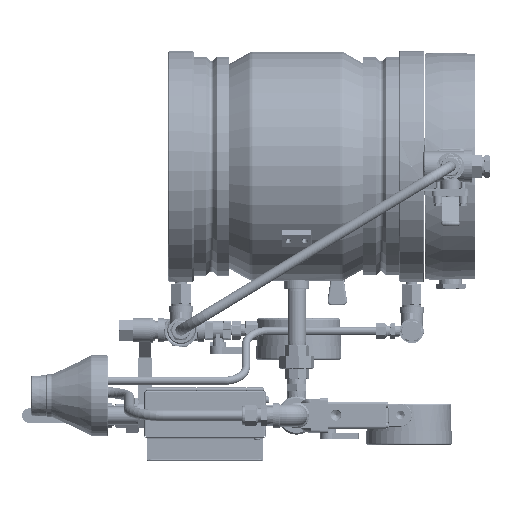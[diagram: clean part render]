
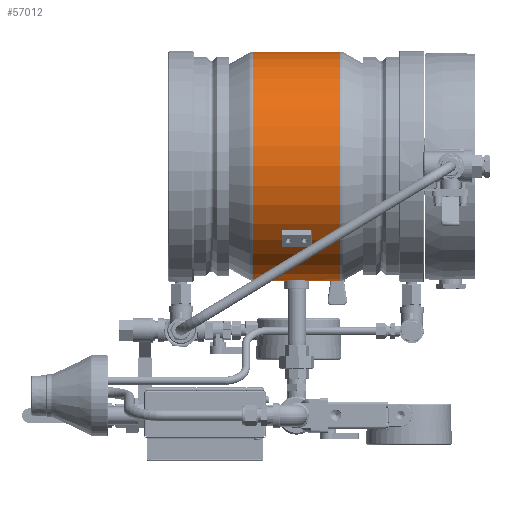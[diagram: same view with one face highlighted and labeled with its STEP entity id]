
A CAD part, front view. The second image highlights one B-rep face of the part: STEP entity #57012.
In plain terms, the highlighted cylindrical face has radius 135 mm (diameter 270 mm), a full revolution.
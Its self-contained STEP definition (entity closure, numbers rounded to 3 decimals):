
#1361=B_SPLINE_CURVE_WITH_KNOTS('',3,(#86276,#86277,#86278,#86279,#86280,
#86281,#86282,#86283,#86284,#86285,#86286,#86287,#86288,#86289,#86290,#86291,
#86292,#86293),.UNSPECIFIED.,.F.,.F.,(4,2,2,2,2,2,2,2,4),(2.111,
2.639,3.167,3.694,4.222,4.75,
5.278,5.805,6.333),.UNSPECIFIED.);
#1362=B_SPLINE_CURVE_WITH_KNOTS('',3,(#86294,#86295,#86296,#86297,#86298,
#86299,#86300,#86301,#86302,#86303,#86304,#86305,#86306,#86307,#86308,#86309,
#86310,#86311,#86312),.UNSPECIFIED.,.F.,.F.,(4,2,2,2,3,2,2,2,4),(6.333,
6.861,7.389,7.917,8.444,8.972,
9.5,10.028,10.555),.UNSPECIFIED.);
#2344=CYLINDRICAL_SURFACE('',#62911,135.);
#14425=FACE_BOUND('',#19535,.T.);
#14426=FACE_BOUND('',#19536,.T.);
#15755=FACE_OUTER_BOUND('',#19534,.T.);
#19534=EDGE_LOOP('',(#41051));
#19535=EDGE_LOOP('',(#41052,#41053));
#19536=EDGE_LOOP('',(#41054));
#24192=CIRCLE('',#62910,135.);
#24193=CIRCLE('',#62912,135.);
#26591=VERTEX_POINT('',#86274);
#26592=VERTEX_POINT('',#86275);
#26613=VERTEX_POINT('',#86404);
#26614=VERTEX_POINT('',#86407);
#32267=EDGE_CURVE('',#26591,#26592,#1361,.T.);
#32268=EDGE_CURVE('',#26592,#26591,#1362,.T.);
#32289=EDGE_CURVE('',#26613,#26613,#24192,.T.);
#32290=EDGE_CURVE('',#26614,#26614,#24193,.T.);
#41051=ORIENTED_EDGE('',*,*,#32290,.F.);
#41052=ORIENTED_EDGE('',*,*,#32267,.T.);
#41053=ORIENTED_EDGE('',*,*,#32268,.T.);
#41054=ORIENTED_EDGE('',*,*,#32289,.F.);
#57012=ADVANCED_FACE('',(#15755,#14425,#14426),#2344,.T.);
#62910=AXIS2_PLACEMENT_3D('',#86405,#69729,#69730);
#62911=AXIS2_PLACEMENT_3D('',#86406,#69731,#69732);
#62912=AXIS2_PLACEMENT_3D('',#86408,#69733,#69734);
#69729=DIRECTION('center_axis',(-1.,0.,0.));
#69730=DIRECTION('ref_axis',(0.,-1.,0.));
#69731=DIRECTION('center_axis',(1.,0.,0.));
#69732=DIRECTION('ref_axis',(0.,1.,0.));
#69733=DIRECTION('center_axis',(1.,0.,0.));
#69734=DIRECTION('ref_axis',(0.,-1.,0.));
#86274=CARTESIAN_POINT('',(220.98,55.923,135.));
#86275=CARTESIAN_POINT('',(248.98,55.923,135.));
#86276=CARTESIAN_POINT('Ctrl Pts',(220.98,55.923,135.));
#86277=CARTESIAN_POINT('Ctrl Pts',(220.98,57.682,135.));
#86278=CARTESIAN_POINT('Ctrl Pts',(221.332,59.558,134.962));
#86279=CARTESIAN_POINT('Ctrl Pts',(222.761,63.007,134.825));
#86280=CARTESIAN_POINT('Ctrl Pts',(223.838,64.58,134.728));
#86281=CARTESIAN_POINT('Ctrl Pts',(226.323,67.065,134.545));
#86282=CARTESIAN_POINT('Ctrl Pts',(227.896,68.142,134.448));
#86283=CARTESIAN_POINT('Ctrl Pts',(231.345,69.571,134.31));
#86284=CARTESIAN_POINT('Ctrl Pts',(233.221,69.923,134.272));
#86285=CARTESIAN_POINT('Ctrl Pts',(236.739,69.923,134.272));
#86286=CARTESIAN_POINT('Ctrl Pts',(238.615,69.571,134.31));
#86287=CARTESIAN_POINT('Ctrl Pts',(242.064,68.142,134.448));
#86288=CARTESIAN_POINT('Ctrl Pts',(243.637,67.065,134.545));
#86289=CARTESIAN_POINT('Ctrl Pts',(246.122,64.58,134.728));
#86290=CARTESIAN_POINT('Ctrl Pts',(247.199,63.007,134.825));
#86291=CARTESIAN_POINT('Ctrl Pts',(248.628,59.558,134.962));
#86292=CARTESIAN_POINT('Ctrl Pts',(248.98,57.682,135.));
#86293=CARTESIAN_POINT('Ctrl Pts',(248.98,55.923,135.));
#86294=CARTESIAN_POINT('Ctrl Pts',(248.98,55.923,135.));
#86295=CARTESIAN_POINT('Ctrl Pts',(248.98,54.164,135.));
#86296=CARTESIAN_POINT('Ctrl Pts',(248.628,52.288,134.962));
#86297=CARTESIAN_POINT('Ctrl Pts',(247.199,48.839,134.825));
#86298=CARTESIAN_POINT('Ctrl Pts',(246.122,47.266,134.728));
#86299=CARTESIAN_POINT('Ctrl Pts',(243.637,44.781,134.545));
#86300=CARTESIAN_POINT('Ctrl Pts',(242.064,43.704,134.448));
#86301=CARTESIAN_POINT('Ctrl Pts',(238.615,42.275,134.31));
#86302=CARTESIAN_POINT('Ctrl Pts',(236.739,41.923,134.272));
#86303=CARTESIAN_POINT('Ctrl Pts',(234.98,41.923,134.272));
#86304=CARTESIAN_POINT('Ctrl Pts',(233.221,41.923,134.272));
#86305=CARTESIAN_POINT('Ctrl Pts',(231.345,42.275,134.31));
#86306=CARTESIAN_POINT('Ctrl Pts',(227.896,43.704,134.448));
#86307=CARTESIAN_POINT('Ctrl Pts',(226.323,44.781,134.545));
#86308=CARTESIAN_POINT('Ctrl Pts',(223.838,47.266,134.728));
#86309=CARTESIAN_POINT('Ctrl Pts',(222.761,48.839,134.825));
#86310=CARTESIAN_POINT('Ctrl Pts',(221.332,52.288,134.962));
#86311=CARTESIAN_POINT('Ctrl Pts',(220.98,54.164,135.));
#86312=CARTESIAN_POINT('Ctrl Pts',(220.98,55.923,135.));
#86404=CARTESIAN_POINT('',(183.608,190.923,0.));
#86405=CARTESIAN_POINT('Origin',(183.608,55.923,0.));
#86406=CARTESIAN_POINT('Origin',(234.98,55.923,0.));
#86407=CARTESIAN_POINT('',(286.353,190.923,0.));
#86408=CARTESIAN_POINT('Origin',(286.353,55.923,0.));
